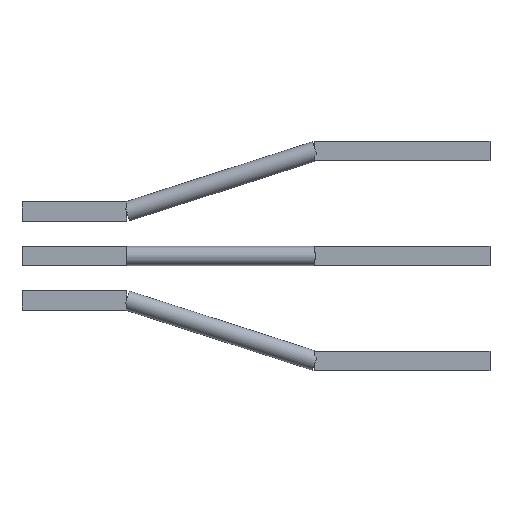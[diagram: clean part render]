
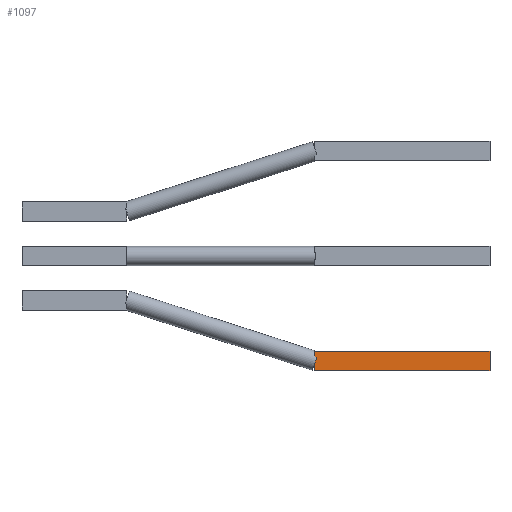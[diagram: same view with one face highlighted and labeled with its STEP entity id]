
A CAD part, top view. The second image highlights one B-rep face of the part: STEP entity #1097.
In plain terms, the highlighted planar face has unit normal (0, 0, 1).
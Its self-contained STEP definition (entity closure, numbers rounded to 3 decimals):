
#285 = CYLINDRICAL_SURFACE('',#286,0.275);
#286 = AXIS2_PLACEMENT_3D('',#287,#288,#289);
#287 = CARTESIAN_POINT('',(108.615,63.733,168.76));
#288 = DIRECTION('',(0.952,-0.306,0.));
#289 = DIRECTION('',(0.306,0.952,0.));
#670 = PLANE('',#671);
#671 = AXIS2_PLACEMENT_3D('',#672,#673,#674);
#672 = CARTESIAN_POINT('',(113.99,62.275,168.505));
#673 = DIRECTION('',(0.,1.,0.));
#674 = DIRECTION('',(0.,0.,1.));
#742 = VERTEX_POINT('',#743);
#743 = CARTESIAN_POINT('',(114.041,62.095,169.015));
#758 = PLANE('',#759);
#759 = AXIS2_PLACEMENT_3D('',#760,#761,#762);
#760 = CARTESIAN_POINT('',(114.01,61.997,168.76));
#761 = DIRECTION('',(0.952,-0.306,0.));
#762 = DIRECTION('',(0.306,0.952,0.));
#770 = EDGE_CURVE('',#771,#742,#773,.T.);
#771 = VERTEX_POINT('',#772);
#772 = CARTESIAN_POINT('',(113.99,62.111,169.015));
#773 = SURFACE_CURVE('',#774,(#778,#784),.PCURVE_S1.);
#774 = LINE('',#775,#776);
#775 = CARTESIAN_POINT('',(108.647,63.831,169.015));
#776 = VECTOR('',#777,1.);
#777 = DIRECTION('',(0.952,-0.306,0.));
#778 = PCURVE('',#285,#779);
#779 = DEFINITIONAL_REPRESENTATION('',(#780),#783);
#780 = B_SPLINE_CURVE_WITH_KNOTS('',1,(#781,#782),.UNSPECIFIED.,.F.,.F.,
  (2,2),(5.087,5.667),.PIECEWISE_BEZIER_KNOTS.);
#781 = CARTESIAN_POINT('',(1.187,5.087));
#782 = CARTESIAN_POINT('',(1.187,5.667));
#783 = ( GEOMETRIC_REPRESENTATION_CONTEXT(2) 
PARAMETRIC_REPRESENTATION_CONTEXT() REPRESENTATION_CONTEXT('2D SPACE',''
  ) );
#784 = PCURVE('',#785,#790);
#785 = PLANE('',#786);
#786 = AXIS2_PLACEMENT_3D('',#787,#788,#789);
#787 = CARTESIAN_POINT('',(113.99,61.725,169.015));
#788 = DIRECTION('',(0.,0.,1.));
#789 = DIRECTION('',(1.,0.,0.));
#790 = DEFINITIONAL_REPRESENTATION('',(#791),#794);
#791 = B_SPLINE_CURVE_WITH_KNOTS('',1,(#792,#793),.UNSPECIFIED.,.F.,.F.,
  (2,2),(5.087,5.667),.PIECEWISE_BEZIER_KNOTS.);
#792 = CARTESIAN_POINT('',(-0.501,0.548));
#793 = CARTESIAN_POINT('',(0.051,0.37));
#794 = ( GEOMETRIC_REPRESENTATION_CONTEXT(2) 
PARAMETRIC_REPRESENTATION_CONTEXT() REPRESENTATION_CONTEXT('2D SPACE',''
  ) );
#817 = PLANE('',#818);
#818 = AXIS2_PLACEMENT_3D('',#819,#820,#821);
#819 = CARTESIAN_POINT('',(113.99,61.725,168.505));
#820 = DIRECTION('',(1.,0.,0.));
#821 = DIRECTION('',(0.,0.,1.));
#955 = VERTEX_POINT('',#956);
#956 = CARTESIAN_POINT('',(119.,62.275,169.015));
#970 = PLANE('',#971);
#971 = AXIS2_PLACEMENT_3D('',#972,#973,#974);
#972 = CARTESIAN_POINT('',(119.,61.725,168.505));
#973 = DIRECTION('',(1.,0.,0.));
#974 = DIRECTION('',(0.,0.,1.));
#1029 = VERTEX_POINT('',#1030);
#1030 = CARTESIAN_POINT('',(113.99,62.275,169.015));
#1051 = EDGE_CURVE('',#1029,#955,#1052,.T.);
#1052 = SURFACE_CURVE('',#1053,(#1057,#1064),.PCURVE_S1.);
#1053 = LINE('',#1054,#1055);
#1054 = CARTESIAN_POINT('',(113.99,62.275,169.015));
#1055 = VECTOR('',#1056,1.);
#1056 = DIRECTION('',(1.,0.,0.));
#1057 = PCURVE('',#670,#1058);
#1058 = DEFINITIONAL_REPRESENTATION('',(#1059),#1063);
#1059 = LINE('',#1060,#1061);
#1060 = CARTESIAN_POINT('',(0.51,0.));
#1061 = VECTOR('',#1062,1.);
#1062 = DIRECTION('',(0.,1.));
#1063 = ( GEOMETRIC_REPRESENTATION_CONTEXT(2) 
PARAMETRIC_REPRESENTATION_CONTEXT() REPRESENTATION_CONTEXT('2D SPACE',''
  ) );
#1064 = PCURVE('',#785,#1065);
#1065 = DEFINITIONAL_REPRESENTATION('',(#1066),#1070);
#1066 = LINE('',#1067,#1068);
#1067 = CARTESIAN_POINT('',(0.,0.55));
#1068 = VECTOR('',#1069,1.);
#1069 = DIRECTION('',(1.,0.));
#1070 = ( GEOMETRIC_REPRESENTATION_CONTEXT(2) 
PARAMETRIC_REPRESENTATION_CONTEXT() REPRESENTATION_CONTEXT('2D SPACE',''
  ) );
#1075 = EDGE_CURVE('',#771,#1029,#1076,.T.);
#1076 = SURFACE_CURVE('',#1077,(#1081,#1088),.PCURVE_S1.);
#1077 = LINE('',#1078,#1079);
#1078 = CARTESIAN_POINT('',(113.99,61.725,169.015));
#1079 = VECTOR('',#1080,1.);
#1080 = DIRECTION('',(0.,1.,0.));
#1081 = PCURVE('',#817,#1082);
#1082 = DEFINITIONAL_REPRESENTATION('',(#1083),#1087);
#1083 = LINE('',#1084,#1085);
#1084 = CARTESIAN_POINT('',(0.51,0.));
#1085 = VECTOR('',#1086,1.);
#1086 = DIRECTION('',(0.,-1.));
#1087 = ( GEOMETRIC_REPRESENTATION_CONTEXT(2) 
PARAMETRIC_REPRESENTATION_CONTEXT() REPRESENTATION_CONTEXT('2D SPACE',''
  ) );
#1088 = PCURVE('',#785,#1089);
#1089 = DEFINITIONAL_REPRESENTATION('',(#1090),#1094);
#1090 = LINE('',#1091,#1092);
#1091 = CARTESIAN_POINT('',(0.,0.));
#1092 = VECTOR('',#1093,1.);
#1093 = DIRECTION('',(0.,1.));
#1094 = ( GEOMETRIC_REPRESENTATION_CONTEXT(2) 
PARAMETRIC_REPRESENTATION_CONTEXT() REPRESENTATION_CONTEXT('2D SPACE',''
  ) );
#1097 = ADVANCED_FACE('',(#1098),#785,.T.);
#1098 = FACE_BOUND('',#1099,.T.);
#1099 = EDGE_LOOP('',(#1100,#1130,#1158,#1179,#1180,#1181,#1182));
#1100 = ORIENTED_EDGE('',*,*,#1101,.F.);
#1101 = EDGE_CURVE('',#1102,#1104,#1106,.T.);
#1102 = VERTEX_POINT('',#1103);
#1103 = CARTESIAN_POINT('',(113.99,61.725,169.015));
#1104 = VERTEX_POINT('',#1105);
#1105 = CARTESIAN_POINT('',(113.99,61.936,169.015));
#1106 = SURFACE_CURVE('',#1107,(#1111,#1118),.PCURVE_S1.);
#1107 = LINE('',#1108,#1109);
#1108 = CARTESIAN_POINT('',(113.99,61.725,169.015));
#1109 = VECTOR('',#1110,1.);
#1110 = DIRECTION('',(0.,1.,0.));
#1111 = PCURVE('',#785,#1112);
#1112 = DEFINITIONAL_REPRESENTATION('',(#1113),#1117);
#1113 = LINE('',#1114,#1115);
#1114 = CARTESIAN_POINT('',(0.,0.));
#1115 = VECTOR('',#1116,1.);
#1116 = DIRECTION('',(0.,1.));
#1117 = ( GEOMETRIC_REPRESENTATION_CONTEXT(2) 
PARAMETRIC_REPRESENTATION_CONTEXT() REPRESENTATION_CONTEXT('2D SPACE',''
  ) );
#1118 = PCURVE('',#1119,#1124);
#1119 = PLANE('',#1120);
#1120 = AXIS2_PLACEMENT_3D('',#1121,#1122,#1123);
#1121 = CARTESIAN_POINT('',(113.99,61.725,168.505));
#1122 = DIRECTION('',(1.,0.,0.));
#1123 = DIRECTION('',(0.,0.,1.));
#1124 = DEFINITIONAL_REPRESENTATION('',(#1125),#1129);
#1125 = LINE('',#1126,#1127);
#1126 = CARTESIAN_POINT('',(0.51,0.));
#1127 = VECTOR('',#1128,1.);
#1128 = DIRECTION('',(0.,-1.));
#1129 = ( GEOMETRIC_REPRESENTATION_CONTEXT(2) 
PARAMETRIC_REPRESENTATION_CONTEXT() REPRESENTATION_CONTEXT('2D SPACE',''
  ) );
#1130 = ORIENTED_EDGE('',*,*,#1131,.T.);
#1131 = EDGE_CURVE('',#1102,#1132,#1134,.T.);
#1132 = VERTEX_POINT('',#1133);
#1133 = CARTESIAN_POINT('',(119.,61.725,169.015));
#1134 = SURFACE_CURVE('',#1135,(#1139,#1146),.PCURVE_S1.);
#1135 = LINE('',#1136,#1137);
#1136 = CARTESIAN_POINT('',(113.99,61.725,169.015));
#1137 = VECTOR('',#1138,1.);
#1138 = DIRECTION('',(1.,0.,0.));
#1139 = PCURVE('',#785,#1140);
#1140 = DEFINITIONAL_REPRESENTATION('',(#1141),#1145);
#1141 = LINE('',#1142,#1143);
#1142 = CARTESIAN_POINT('',(0.,0.));
#1143 = VECTOR('',#1144,1.);
#1144 = DIRECTION('',(1.,0.));
#1145 = ( GEOMETRIC_REPRESENTATION_CONTEXT(2) 
PARAMETRIC_REPRESENTATION_CONTEXT() REPRESENTATION_CONTEXT('2D SPACE',''
  ) );
#1146 = PCURVE('',#1147,#1152);
#1147 = PLANE('',#1148);
#1148 = AXIS2_PLACEMENT_3D('',#1149,#1150,#1151);
#1149 = CARTESIAN_POINT('',(113.99,61.725,168.505));
#1150 = DIRECTION('',(0.,1.,0.));
#1151 = DIRECTION('',(0.,0.,1.));
#1152 = DEFINITIONAL_REPRESENTATION('',(#1153),#1157);
#1153 = LINE('',#1154,#1155);
#1154 = CARTESIAN_POINT('',(0.51,0.));
#1155 = VECTOR('',#1156,1.);
#1156 = DIRECTION('',(0.,1.));
#1157 = ( GEOMETRIC_REPRESENTATION_CONTEXT(2) 
PARAMETRIC_REPRESENTATION_CONTEXT() REPRESENTATION_CONTEXT('2D SPACE',''
  ) );
#1158 = ORIENTED_EDGE('',*,*,#1159,.T.);
#1159 = EDGE_CURVE('',#1132,#955,#1160,.T.);
#1160 = SURFACE_CURVE('',#1161,(#1165,#1172),.PCURVE_S1.);
#1161 = LINE('',#1162,#1163);
#1162 = CARTESIAN_POINT('',(119.,61.725,169.015));
#1163 = VECTOR('',#1164,1.);
#1164 = DIRECTION('',(0.,1.,0.));
#1165 = PCURVE('',#785,#1166);
#1166 = DEFINITIONAL_REPRESENTATION('',(#1167),#1171);
#1167 = LINE('',#1168,#1169);
#1168 = CARTESIAN_POINT('',(5.01,0.));
#1169 = VECTOR('',#1170,1.);
#1170 = DIRECTION('',(0.,1.));
#1171 = ( GEOMETRIC_REPRESENTATION_CONTEXT(2) 
PARAMETRIC_REPRESENTATION_CONTEXT() REPRESENTATION_CONTEXT('2D SPACE',''
  ) );
#1172 = PCURVE('',#970,#1173);
#1173 = DEFINITIONAL_REPRESENTATION('',(#1174),#1178);
#1174 = LINE('',#1175,#1176);
#1175 = CARTESIAN_POINT('',(0.51,0.));
#1176 = VECTOR('',#1177,1.);
#1177 = DIRECTION('',(0.,-1.));
#1178 = ( GEOMETRIC_REPRESENTATION_CONTEXT(2) 
PARAMETRIC_REPRESENTATION_CONTEXT() REPRESENTATION_CONTEXT('2D SPACE',''
  ) );
#1179 = ORIENTED_EDGE('',*,*,#1051,.F.);
#1180 = ORIENTED_EDGE('',*,*,#1075,.F.);
#1181 = ORIENTED_EDGE('',*,*,#770,.T.);
#1182 = ORIENTED_EDGE('',*,*,#1183,.T.);
#1183 = EDGE_CURVE('',#742,#1104,#1184,.T.);
#1184 = SURFACE_CURVE('',#1185,(#1189,#1195),.PCURVE_S1.);
#1185 = LINE('',#1186,#1187);
#1186 = CARTESIAN_POINT('',(113.969,61.871,169.015));
#1187 = VECTOR('',#1188,1.);
#1188 = DIRECTION('',(-0.306,-0.952,0.));
#1189 = PCURVE('',#785,#1190);
#1190 = DEFINITIONAL_REPRESENTATION('',(#1191),#1194);
#1191 = B_SPLINE_CURVE_WITH_KNOTS('',1,(#1192,#1193),.UNSPECIFIED.,.F.,
  .F.,(2,2),(-0.407,-0.069),
  .PIECEWISE_BEZIER_KNOTS.);
#1192 = CARTESIAN_POINT('',(0.104,0.534));
#1193 = CARTESIAN_POINT('',(0.,0.211));
#1194 = ( GEOMETRIC_REPRESENTATION_CONTEXT(2) 
PARAMETRIC_REPRESENTATION_CONTEXT() REPRESENTATION_CONTEXT('2D SPACE',''
  ) );
#1195 = PCURVE('',#758,#1196);
#1196 = DEFINITIONAL_REPRESENTATION('',(#1197),#1200);
#1197 = B_SPLINE_CURVE_WITH_KNOTS('',1,(#1198,#1199),.UNSPECIFIED.,.F.,
  .F.,(2,2),(-0.407,-0.069),
  .PIECEWISE_BEZIER_KNOTS.);
#1198 = CARTESIAN_POINT('',(0.275,0.255));
#1199 = CARTESIAN_POINT('',(-0.064,0.255));
#1200 = ( GEOMETRIC_REPRESENTATION_CONTEXT(2) 
PARAMETRIC_REPRESENTATION_CONTEXT() REPRESENTATION_CONTEXT('2D SPACE',''
  ) );
